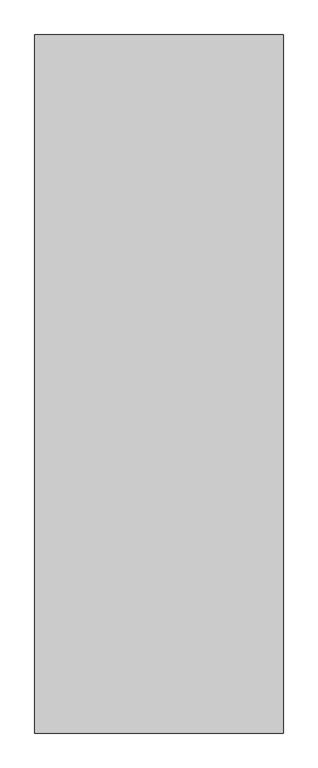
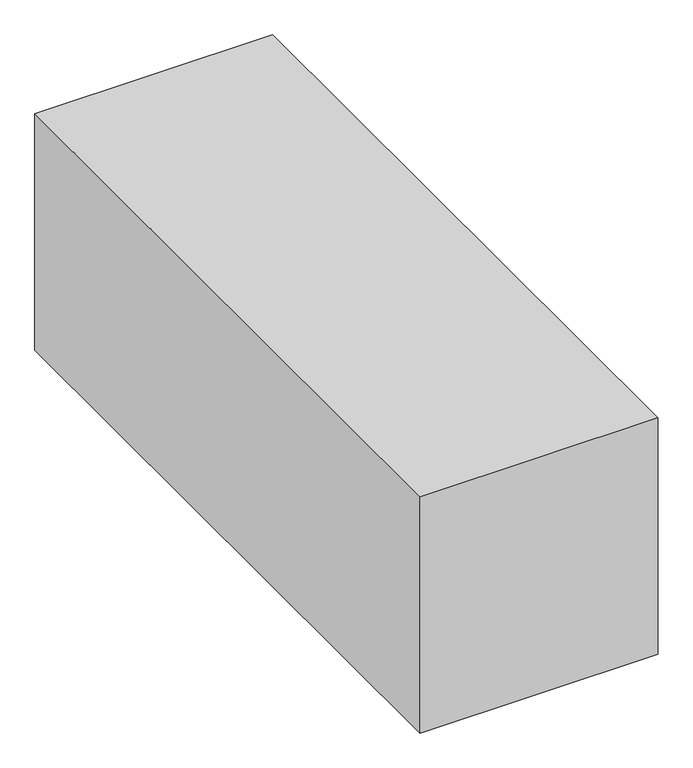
"""IFC4 building model written with IfcOpenShell, lengths in millimetres: proxy geometry."""

from ifc_helpers import new_model, si_unit, origin, origin_with_axes, place, context, project, spatial, polyline, outline, extrude, source, transform, mapped, element, save


def generic_models_9b48b518(model_context):
    return source(origin(), model_context, "Body", "SweptSolid", [
        extrude(outline(polyline([(-108663.1304765, -26850.7903364), (-106286.1304765, -26850.7903364), (-106286.1304765, -33525.2180652), (-108663.1304765, -33525.2180652), (-108663.1304765, -26850.7903364)])), origin_with_axes(), (0.0, 0.0, 1.0), 2500.0),
    ])


if __name__ == "__main__":
    model = new_model("IFC4")
    model_context = context("Model", 3, world=origin())
    ifc_project = project(units=[si_unit("LENGTHUNIT", "METRE", prefix="MILLI")], contexts=[model_context])
    site = spatial("IfcSite", under=ifc_project)
    building = spatial("IfcBuilding", under=site)
    placement = place(None, origin())
    generic_models_shape = generic_models_9b48b518(model_context)
    element("IfcBuildingElementProxy", 1, Name="Generic Models", at=placement, inside=building, context=model_context, shape_type="MappedRepresentation", body=[
        mapped(generic_models_shape, transform((0.0, 0.0, 0.0), x_axis=(1.0, 0.0, 0.0), y_axis=(0.0, 1.0, 0.0), z_axis=(0.0, 0.0, 1.0))),
    ])
    save(model, "model.ifc")
